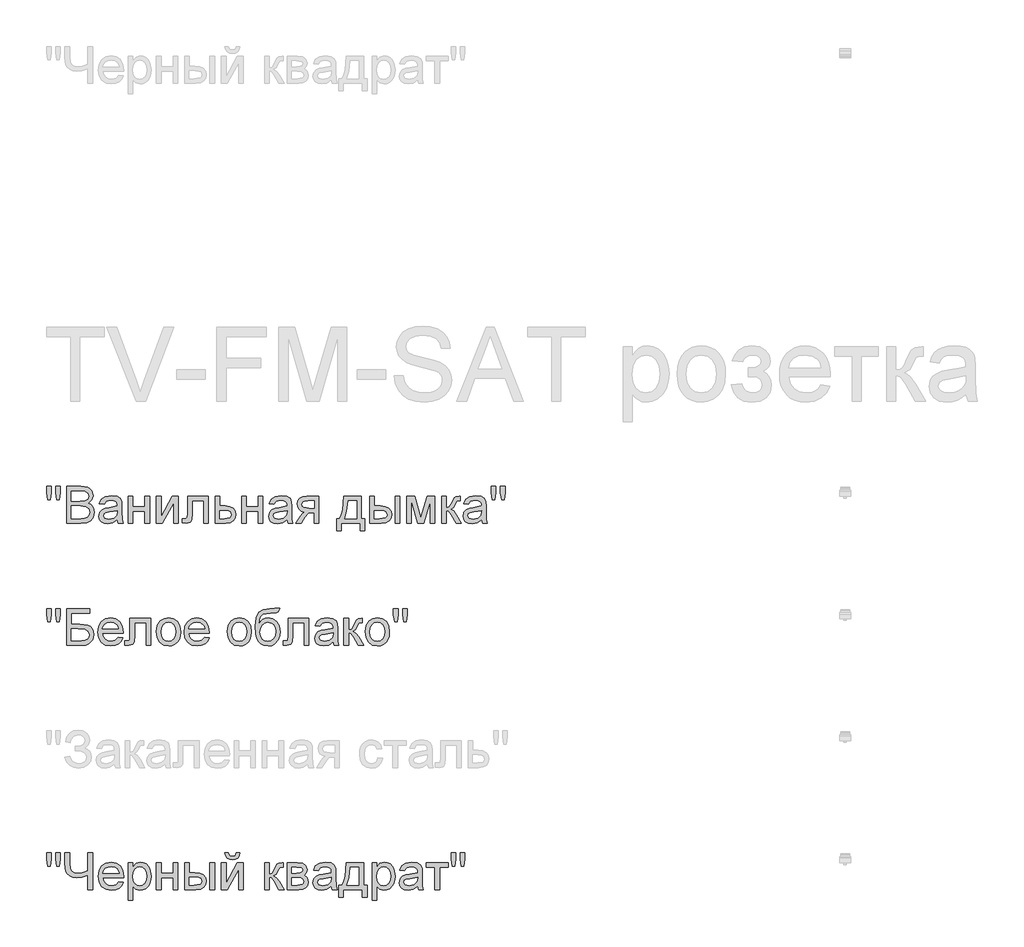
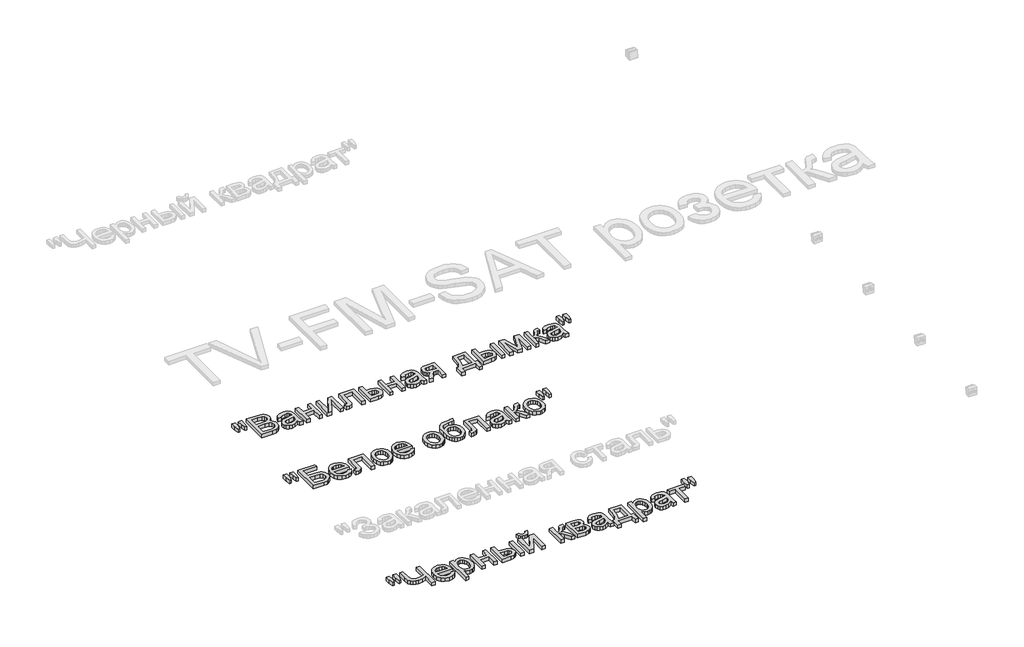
# One storey, part 20 of 168: 3 proxies.
"""IFC4 building model written with IfcOpenShell, lengths in millimetres."""

from ifc_helpers import new_model, si_unit, origin, origin_with_axes, place, context, project, spatial, polyline, outline, extrude, element, save

model = new_model("IFC4")

# Units and contexts
model_context = context("Model", 3, world=origin())
ifc_project = project(units=[si_unit("LENGTHUNIT", "METRE", prefix="MILLI")], contexts=[model_context])

# Site, building, storey
site = spatial("IfcSite", under=ifc_project)
building = spatial("IfcBuilding", under=site)
storey = spatial("IfcBuildingStorey", under=building, Name="Этаж 01", Elevation=0.0)

# Proxies
placement = place(None, origin())
element("IfcBuildingElementProxy", 1, Name="150", ObjectType="150", at=placement, inside=storey, context=model_context, shape_type="SweptSolid", body=[
    extrude(outline(polyline([(49080.1485789, -54970.3300622), (49075.550054, -54941.2305964), (49075.550054, -54916.1778325), (49094.3856121, -54916.1778325), (49094.3856121, -54941.2305964), (49090.2653338, -54970.3300622), (49080.1485789, -54970.3300622)])), origin_with_axes(), (0.0, 0.0, 1.0), 20.0),
    extrude(outline(polyline([(49117.7093306, -54970.3300622), (49113.2211703, -54941.2305964), (49113.2211703, -54916.1778325), (49132.0567284, -54916.1778325), (49132.0567284, -54941.2305964), (49127.6421445, -54970.3300622), (49117.7093306, -54970.3300622)])), origin_with_axes(), (0.0, 0.0, 1.0), 20.0),
    extrude(outline(polyline([(49157.9556209, -55066.8622977), (49157.9556209, -54916.1778325), (49215.4555767, -54916.1778325), (49243.6169435, -54920.6108106), (49253.0807078, -54926.2348066), (49260.2452096, -54934.2408385), (49266.2600803, -54953.517855), (49261.2017028, -54971.1210085), (49245.9162059, -54984.4567308), (49256.5893823, -54990.030143), (49264.4758526, -54998.509823), (49269.3456905, -55009.3347507), (49270.9689698, -55021.9439061), (49266.5359918, -55042.19581), (49255.5547142, -55056.6167842), (49239.1655713, -55064.2687297), (49215.0141183, -55066.8622977), (49157.9556209, -55066.8622977)]), holes=[polyline([(49176.791179, -54977.3933965), (49211.1881456, -54977.3933965), (49231.2745025, -54975.7747157), (49243.3594261, -54968.8033519), (49247.4245221, -54956.5344874), (49243.6353376, -54944.2472287), (49232.7828187, -54936.9815593), (49208.5761834, -54935.0133907), (49176.791179, -54935.0133907), (49176.791179, -54977.3933965)]), polyline([(49176.791179, -55048.0267396), (49215.4187885, -55048.0267396), (49229.3983043, -55047.2909756), (49241.2257105, -55043.1890913), (49249.061597, -55034.819776), (49252.1334117, -55022.1278471), (49248.5281681, -55007.4861437), (49236.8479148, -54998.7489463), (49213.5793786, -54996.2289547), (49176.791179, -54996.2289547), (49176.791179, -55048.0267396)])]), origin_with_axes(), (0.0, 0.0, 1.0), 20.0),
    extrude(outline(polyline([(49365.1467606, -55052.7356291), (49346.8814195, -55065.5011344), (49326.7030921, -55069.2167425), (49310.9623412, -55066.9818594), (49299.3510657, -55060.27721), (49292.1911624, -55050.0960758), (49289.804528, -55037.4317381), (49293.4097715, -55022.5325173), (49302.8827329, -55011.7167867), (49316.0713024, -55005.5363691), (49332.3684748, -55002.7036778), (49365.036396, -54996.2289547), (49365.1467606, -54992.0350999), (49363.8499765, -54983.6289963), (49359.9596244, -54978.1291605), (49351.2592153, -54974.0456704), (49339.1375035, -54972.684507), (49320.0812162, -54976.3081446), (49310.9945309, -54989.1656204), (49292.1589727, -54986.8111756), (49300.3075589, -54968.4170758), (49316.7150959, -54957.6381334), (49341.5655247, -54953.8489488), (49364.3926025, -54957.196675), (49377.2868664, -54965.6027786), (49383.0626137, -54978.3866779), (49383.9823187, -54994.8677913), (49383.9823187, -55018.3018744), (49384.9388119, -55051.0249778), (49388.6912083, -55066.8622977), (49369.8556501, -55066.8622977), (49365.1467606, -55052.7356291)]), holes=[polyline([(49365.1467606, -55015.0645128), (49334.7597078, -55020.8402601), (49318.5545059, -55023.8936807), (49311.2152601, -55028.8600876), (49308.6400861, -55036.1073629), (49314.2502865, -55046.2976942), (49330.7130058, -55050.3811843), (49349.7692932, -55045.8746299), (49362.0565518, -55034.9669288), (49365.036396, -55020.3988017), (49365.1467606, -55015.0645128)])]), origin_with_axes(), (0.0, 0.0, 1.0), 20.0),
    extrude(outline(polyline([(49409.8812112, -54956.2033936), (49428.7167693, -54956.2033936), (49428.7167693, -54998.5833994), (49478.1601095, -54998.5833994), (49478.1601095, -54956.2033936), (49496.9956676, -54956.2033936), (49496.9956676, -55066.8622977), (49478.1601095, -55066.8622977), (49478.1601095, -55017.4189576), (49428.7167693, -55017.4189576), (49428.7167693, -55066.8622977), (49409.8812112, -55066.8622977), (49409.8812112, -54956.2033936)])), origin_with_axes(), (0.0, 0.0, 1.0), 20.0),
    extrude(outline(polyline([(49525.2490049, -54956.2033936), (49544.084563, -54956.2033936), (49544.084563, -55040.5955233), (49590.364118, -54956.2033936), (49614.7179061, -54956.2033936), (49614.7179061, -55066.8622977), (49595.8823479, -55066.8622977), (49595.8823479, -54982.9852028), (49549.8970985, -55066.8622977), (49525.2490049, -55066.8622977), (49525.2490049, -54956.2033936)])), origin_with_axes(), (0.0, 0.0, 1.0), 20.0),
    extrude(outline(polyline([(49652.3890224, -54956.2033936), (49737.1490341, -54956.2033936), (49737.1490341, -55066.7519331), (49718.3134759, -55066.7519331), (49718.3134759, -54975.0389517), (49671.2245806, -54975.0389517), (49671.2245806, -55027.830018), (49669.9553877, -55052.1838061), (49662.9840239, -55062.4661079), (49646.5029105, -55066.8622977), (49631.1990195, -55065.9058045), (49631.1990195, -55048.0267396), (49639.6235172, -55048.0267396), (49648.1399854, -55046.8679113), (49651.5428938, -55043.1890913), (49652.3890224, -55026.7631603), (49652.3890224, -54956.2033936)])), origin_with_axes(), (0.0, 0.0, 1.0), 20.0),
    extrude(outline(polyline([(49765.4023713, -54956.2033936), (49784.2379295, -54956.2033936), (49784.2379295, -54996.2289547), (49805.9429672, -54996.2289547), (49824.7601312, -54998.587998), (49838.6844648, -55005.6651278), (49847.2929034, -55016.8901272), (49850.162383, -55031.692779), (49847.7205663, -55045.1710556), (49840.395116, -55056.5432078), (49827.6985887, -55064.2825252), (49809.1435405, -55066.8622977), (49765.4023713, -55066.8622977), (49765.4023713, -54956.2033936)]), holes=[polyline([(49784.2379295, -55048.0267396), (49801.8226888, -55048.0267396), (49824.539402, -55044.0720081), (49829.6299692, -55039.0090322), (49831.3268249, -55031.7295672), (49826.3052356, -55020.1412843), (49818.2348244, -55016.3337057), (49804.066769, -55015.0645128), (49784.2379295, -55015.0645128), (49784.2379295, -55048.0267396)])]), origin_with_axes(), (0.0, 0.0, 1.0), 20.0),
    extrude(outline(polyline([(49873.7068307, -54956.2033936), (49892.5423889, -54956.2033936), (49892.5423889, -54998.5833994), (49941.985729, -54998.5833994), (49941.985729, -54956.2033936), (49960.8212872, -54956.2033936), (49960.8212872, -55066.8622977), (49941.985729, -55066.8622977), (49941.985729, -55017.4189576), (49892.5423889, -55017.4189576), (49892.5423889, -55066.8622977), (49873.7068307, -55066.8622977), (49873.7068307, -54956.2033936)])), origin_with_axes(), (0.0, 0.0, 1.0), 20.0),
    extrude(outline(polyline([(50059.7079675, -55052.7356291), (50041.4426264, -55065.5011344), (50021.264299, -55069.2167425), (50005.5235481, -55066.9818594), (49993.9122726, -55060.27721), (49986.7523693, -55050.0960758), (49984.3657349, -55037.4317381), (49987.9709784, -55022.5325173), (49997.4439398, -55011.7167867), (50010.6325093, -55005.5363691), (50026.9296817, -55002.7036778), (50059.5976029, -54996.2289547), (50059.7079675, -54992.0350999), (50058.4111834, -54983.6289963), (50054.5208313, -54978.1291605), (50045.8204221, -54974.0456704), (50033.6987104, -54972.684507), (50014.6424231, -54976.3081446), (50005.5557378, -54989.1656204), (49986.7201796, -54986.8111756), (49994.8687658, -54968.4170758), (50011.2763028, -54957.6381334), (50036.1267316, -54953.8489488), (50058.9538094, -54957.196675), (50071.8480733, -54965.6027786), (50077.6238206, -54978.3866779), (50078.5435256, -54994.8677913), (50078.5435256, -55018.3018744), (50079.5000188, -55051.0249778), (50083.2524152, -55066.8622977), (50064.416857, -55066.8622977), (50059.7079675, -55052.7356291)]), holes=[polyline([(50059.7079675, -55015.0645128), (50029.3209147, -55020.8402601), (50013.1157128, -55023.8936807), (50005.776467, -55028.8600876), (50003.201293, -55036.1073629), (50008.8114934, -55046.2976942), (50025.2742127, -55050.3811843), (50044.3305001, -55045.8746299), (50056.6177587, -55034.9669288), (50059.5976029, -55020.3988017), (50059.7079675, -55015.0645128)])]), origin_with_axes(), (0.0, 0.0, 1.0), 20.0),
    extrude(outline(polyline([(50189.2024298, -54956.2033936), (50189.2024298, -55066.8622977), (50170.3668716, -55066.8622977), (50170.3668716, -55024.4822919), (50160.1029639, -55024.4822919), (50146.1234481, -55026.8735249), (50132.9900609, -55042.949968), (50117.9804755, -55066.8622977), (50096.2018614, -55066.8622977), (50115.1109959, -55036.6223977), (50123.4619172, -55025.7698789), (50131.1506509, -55020.9506247), (50118.2747811, -55017.0050903), (50109.224884, -55009.5094947), (50103.872201, -54999.5398926), (50102.0879733, -54988.172339), (50104.5251915, -54975.278075), (50111.8368462, -54965.0693497), (50123.7654199, -54958.4198826), (50140.0533952, -54956.2033936), (50189.2024298, -54956.2033936)]), holes=[polyline([(50170.3668716, -54975.0389517), (50145.5348369, -54975.0389517), (50132.7095509, -54976.1288021), (50125.4300859, -54979.3983534), (50120.9235315, -54989.6070787), (50122.583599, -54996.7853762), (50127.5638015, -55001.7655787), (50151.0898551, -55005.6467337), (50170.3668716, -55005.6467337), (50170.3668716, -54975.0389517)])]), origin_with_axes(), (0.0, 0.0, 1.0), 20.0),
    extrude(outline(polyline([(50292.7979996, -54956.2033936), (50363.4313427, -54956.2033936), (50363.4313427, -55048.0267396), (50377.5580113, -55048.0267396), (50377.5580113, -55097.4700797), (50358.7224531, -55097.4700797), (50358.7224531, -55066.8622977), (50281.0257758, -55066.8622977), (50281.0257758, -55097.4700797), (50262.1902176, -55097.4700797), (50262.1902176, -55048.0267396), (50273.9624415, -55048.0267396), (50282.5202964, -55032.5619002), (50288.5121744, -55012.1030628), (50292.7979996, -54956.2033936)]), holes=[polyline([(50309.279113, -54975.0389517), (50304.864529, -55017.9523865), (50295.1524444, -55048.0267396), (50344.5957845, -55048.0267396), (50344.5957845, -54975.0389517), (50309.279113, -54975.0389517)])]), origin_with_axes(), (0.0, 0.0, 1.0), 20.0),
    extrude(outline(polyline([(50502.3435841, -54956.2033936), (50521.1791422, -54956.2033936), (50521.1791422, -55066.8622977), (50502.3435841, -55066.8622977), (50502.3435841, -54956.2033936)])), origin_with_axes(), (0.0, 0.0, 1.0), 20.0),
    extrude(outline(polyline([(50398.7480142, -54956.2033936), (50417.5835724, -54956.2033936), (50417.5835724, -54996.2289547), (50440.8705027, -54996.2289547), (50460.9982463, -54998.587998), (50475.9112627, -55005.6651278), (50485.1405023, -55016.8901272), (50488.2169154, -55031.692779), (50485.637143, -55045.1710556), (50477.8978255, -55056.5432078), (50464.4931253, -55064.2825252), (50444.9172046, -55066.8622977), (50398.7480142, -55066.8622977), (50398.7480142, -54956.2033936)]), holes=[polyline([(50417.5835724, -55048.0267396), (50436.9341653, -55048.0267396), (50461.9133528, -55044.0720081), (50467.5143562, -55039.0090322), (50469.3813573, -55031.7295672), (50463.8447333, -55020.1412843), (50454.9649816, -55016.3337057), (50439.3989747, -55015.0645128), (50417.5835724, -55015.0645128), (50417.5835724, -55048.0267396)])]), origin_with_axes(), (0.0, 0.0, 1.0), 20.0),
    extrude(outline(polyline([(50549.4324794, -54956.2033936), (50581.8428832, -54956.2033936), (50606.8220707, -55044.789378), (50633.7510327, -54956.2033936), (50664.8002731, -54956.2033936), (50664.8002731, -55066.8622977), (50645.964715, -55066.8622977), (50645.964715, -54977.7612785), (50618.8886001, -55066.8622977), (50594.1669301, -55066.8622977), (50568.2680376, -54973.4938474), (50568.2680376, -55066.8622977), (50549.4324794, -55066.8622977), (50549.4324794, -54956.2033936)])), origin_with_axes(), (0.0, 0.0, 1.0), 20.0),
    extrude(outline(polyline([(50693.0536104, -54956.2033936), (50711.8891685, -54956.2033936), (50711.8891685, -55003.292289), (50724.5075209, -54999.9077746), (50734.845005, -54980.1892997), (50743.4350496, -54963.1747574), (50751.0134187, -54957.6381334), (50764.7905994, -54956.2033936), (50768.395843, -54956.2033936), (50768.395843, -54975.1493163), (50763.3190714, -54975.0389517), (50754.1220216, -54977.0255145), (50747.6472984, -54989.4231377), (50740.0505352, -55002.8324365), (50729.4003515, -55009.3991301), (50741.2829399, -55016.7291788), (50752.9447992, -55032.1710256), (50773.1047325, -55066.8622977), (50751.6940004, -55066.8622977), (50731.9387372, -55032.9067896), (50722.0059234, -55018.5409977), (50711.8891685, -55015.0645128), (50711.8891685, -55066.8622977), (50693.0536104, -55066.8622977), (50693.0536104, -54956.2033936)])), origin_with_axes(), (0.0, 0.0, 1.0), 20.0),
    extrude(outline(polyline([(50855.5102994, -55052.7356291), (50837.2449584, -55065.5011344), (50817.0666309, -55069.2167425), (50801.3258801, -55066.9818594), (50789.7146046, -55060.27721), (50782.5547013, -55050.0960758), (50780.1680668, -55037.4317381), (50783.7733104, -55022.5325173), (50793.2462717, -55011.7167867), (50806.4348413, -55005.5363691), (50822.7320137, -55002.7036778), (50855.3999348, -54996.2289547), (50855.5102994, -54992.0350999), (50854.2135154, -54983.6289963), (50850.3231633, -54978.1291605), (50841.6227541, -54974.0456704), (50829.5010424, -54972.684507), (50810.444755, -54976.3081446), (50801.3580697, -54989.1656204), (50782.5225116, -54986.8111756), (50790.6710978, -54968.4170758), (50807.0786348, -54957.6381334), (50831.9290635, -54953.8489488), (50854.7561413, -54957.196675), (50867.6504053, -54965.6027786), (50873.4261526, -54978.3866779), (50874.3458576, -54994.8677913), (50874.3458576, -55018.3018744), (50875.3023508, -55051.0249778), (50879.0547471, -55066.8622977), (50860.219189, -55066.8622977), (50855.5102994, -55052.7356291)]), holes=[polyline([(50855.5102994, -55015.0645128), (50825.1232466, -55020.8402601), (50808.9180447, -55023.8936807), (50801.5787989, -55028.8600876), (50799.003625, -55036.1073629), (50804.6138254, -55046.2976942), (50821.0765447, -55050.3811843), (50840.132832, -55045.8746299), (50852.4200907, -55034.9669288), (50855.3999348, -55020.3988017), (50855.5102994, -55015.0645128)])]), origin_with_axes(), (0.0, 0.0, 1.0), 20.0),
    extrude(outline(polyline([(50900.1343854, -54970.3300622), (50895.5358605, -54941.2305964), (50895.5358605, -54916.1778325), (50914.3714187, -54916.1778325), (50914.3714187, -54941.2305964), (50910.2511403, -54970.3300622), (50900.1343854, -54970.3300622)])), origin_with_axes(), (0.0, 0.0, 1.0), 20.0),
    extrude(outline(polyline([(50937.6951372, -54970.3300622), (50933.2069768, -54941.2305964), (50933.2069768, -54916.1778325), (50952.042535, -54916.1778325), (50952.042535, -54941.2305964), (50947.627951, -54970.3300622), (50937.6951372, -54970.3300622)])), origin_with_axes(), (0.0, 0.0, 1.0), 20.0),
])
element("IfcBuildingElementProxy", 2, Name="150", ObjectType="150", at=placement, inside=storey, context=model_context, shape_type="SweptSolid", body=[
    extrude(outline(polyline([(49080.1485789, -55470.3300622), (49075.550054, -55441.2305964), (49075.550054, -55416.1778325), (49094.3856121, -55416.1778325), (49094.3856121, -55441.2305964), (49090.2653338, -55470.3300622), (49080.1485789, -55470.3300622)])), origin_with_axes(), (0.0, 0.0, 1.0), 20.0),
    extrude(outline(polyline([(49117.7093306, -55470.3300622), (49113.2211703, -55441.2305964), (49113.2211703, -55416.1778325), (49132.0567284, -55416.1778325), (49132.0567284, -55441.2305964), (49127.6421445, -55470.3300622), (49117.7093306, -55470.3300622)])), origin_with_axes(), (0.0, 0.0, 1.0), 20.0),
    extrude(outline(polyline([(49157.9556209, -55416.1778325), (49252.1334117, -55416.1778325), (49252.1334117, -55435.0133907), (49176.791179, -55435.0133907), (49176.791179, -55479.7478413), (49212.0710624, -55479.7478413), (49243.157091, -55483.573814), (49253.5589544, -55489.101241), (49261.6615553, -55498.0315764), (49266.8762826, -55509.5278888), (49268.614525, -55522.7532465), (49263.6665122, -55544.2191609), (49248.8960501, -55560.5347274), (49235.6247071, -55565.2804052), (49215.4555767, -55566.8622977), (49157.9556209, -55566.8622977), (49157.9556209, -55416.1778325)]), holes=[polyline([(49176.791179, -55548.0267396), (49217.1478339, -55548.0267396), (49231.4124583, -55546.4724382), (49241.6119866, -55541.8095339), (49247.7372218, -55534.0380267), (49249.7789669, -55523.1579167), (49245.1068655, -55508.4058487), (49232.102237, -55500.533174), (49203.7201411, -55498.5833994), (49176.791179, -55498.5833994), (49176.791179, -55548.0267396)])]), origin_with_axes(), (0.0, 0.0, 1.0), 20.0),
    extrude(outline(polyline([(49369.6349209, -55533.900071), (49388.1025971, -55536.2545157), (49381.4485315, -55550.1696522), (49370.8305374, -55560.5715156), (49356.4877381, -55567.0554358), (49338.6592569, -55569.2167425), (49316.5587461, -55565.4873388), (49299.5534008, -55554.2991276), (49288.710079, -55536.3786759), (49285.0956384, -55512.4525506), (49288.7468672, -55487.7216835), (49299.7005536, -55469.2264162), (49316.4759726, -55457.6933157), (49337.5923991, -55453.8489488), (49358.0512366, -55457.6841186), (49374.3989927, -55469.189628), (49385.1181544, -55487.6481071), (49388.6912083, -55512.342186), (49388.5808437, -55517.4189576), (49303.9311966, -55517.4189576), (49307.1915508, -55531.518035), (49314.7653213, -55541.8831103), (49325.6960151, -55548.2566658), (49339.0271389, -55550.3811843), (49357.4948151, -55546.444847), (49369.6349209, -55533.900071)]), holes=[polyline([(49303.9311966, -55498.5833994), (49369.8556501, -55498.5833994), (49367.3080673, -55488.6321915), (49362.3140692, -55481.5136749), (49351.3327917, -55474.8917989), (49337.5188227, -55472.684507), (49324.8222954, -55474.445742), (49314.3238629, -55479.7294472), (49307.0260039, -55487.9654053), (49303.9311966, -55498.5833994)])]), origin_with_axes(), (0.0, 0.0, 1.0), 20.0),
    extrude(outline(polyline([(49416.9445455, -55456.2033936), (49501.7045572, -55456.2033936), (49501.7045572, -55566.7519331), (49482.868999, -55566.7519331), (49482.868999, -55475.0389517), (49435.7801036, -55475.0389517), (49435.7801036, -55527.830018), (49434.5109108, -55552.1838061), (49427.539547, -55562.4661079), (49411.0584336, -55566.8622977), (49395.7545426, -55565.9058045), (49395.7545426, -55548.0267396), (49404.1790403, -55548.0267396), (49412.6955084, -55546.8679113), (49416.0984169, -55543.1890913), (49416.9445455, -55526.7631603), (49416.9445455, -55456.2033936)])), origin_with_axes(), (0.0, 0.0, 1.0), 20.0),
    extrude(outline(polyline([(49525.2490049, -55511.5328457), (49529.323298, -55484.852204), (49541.5461773, -55466.0994193), (49556.6477332, -55456.9115664), (49574.7291332, -55453.8489488), (49594.516586, -55457.5783525), (49610.3217163, -55468.7665637), (49620.6821929, -55486.5306656), (49624.1356852, -55509.9877413), (49622.6089749, -55529.0164375), (49618.0288441, -55543.501791), (49610.5286499, -55554.3497114), (49600.2417496, -55562.4661079), (49588.0234688, -55567.5290839), (49574.7291332, -55569.2167425), (49554.7025571, -55565.5011344), (49538.915821, -55554.3543099), (49528.6657089, -55536.2177275), (49525.2490049, -55511.5328457)]), holes=[polyline([(49544.084563, -55511.4960575), (49546.2642638, -55528.5427894), (49552.8033663, -55540.6874938), (49562.6442097, -55547.9577617), (49574.7291332, -55550.3811843), (49586.7588745, -55547.9439661), (49596.5813237, -55540.6323115), (49603.1204262, -55528.3266587), (49605.300127, -55510.9074463), (49603.1066306, -55494.357355), (49596.5261414, -55482.3781975), (49586.6898966, -55475.1079296), (49574.7291332, -55472.684507), (49562.6442097, -55475.0987326), (49552.8033663, -55482.3414093), (49546.2642638, -55494.4585226), (49544.084563, -55511.4960575)])]), origin_with_axes(), (0.0, 0.0, 1.0), 20.0),
    extrude(outline(polyline([(49722.8016363, -55533.900071), (49741.2693124, -55536.2545157), (49734.6152469, -55550.1696522), (49723.9972528, -55560.5715156), (49709.6544535, -55567.0554358), (49691.8259723, -55569.2167425), (49669.7254614, -55565.4873388), (49652.7201162, -55554.2991276), (49641.8767944, -55536.3786759), (49638.2623538, -55512.4525506), (49641.9135826, -55487.7216835), (49652.867269, -55469.2264162), (49669.642688, -55457.6933157), (49690.7591145, -55453.8489488), (49711.217952, -55457.6841186), (49727.5657081, -55469.189628), (49738.2848698, -55487.6481071), (49741.8579236, -55512.342186), (49741.747559, -55517.4189576), (49657.0979119, -55517.4189576), (49660.3582661, -55531.518035), (49667.9320367, -55541.8831103), (49678.8627305, -55548.2566658), (49692.1938543, -55550.3811843), (49710.6615304, -55546.444847), (49722.8016363, -55533.900071)]), holes=[polyline([(49657.0979119, -55498.5833994), (49723.0223655, -55498.5833994), (49720.4747827, -55488.6321915), (49715.4807846, -55481.5136749), (49704.499507, -55474.8917989), (49690.6855381, -55472.684507), (49677.9890107, -55474.445742), (49667.4905783, -55479.7294472), (49660.1927192, -55487.9654053), (49657.0979119, -55498.5833994)])]), origin_with_axes(), (0.0, 0.0, 1.0), 20.0),
    extrude(outline(polyline([(49814.8457115, -55511.5328457), (49818.9200046, -55484.852204), (49831.1428839, -55466.0994193), (49846.2444398, -55456.9115664), (49864.3258398, -55453.8489488), (49884.1132926, -55457.5783525), (49899.9184229, -55468.7665637), (49910.2788995, -55486.5306656), (49913.7323918, -55509.9877413), (49912.2056815, -55529.0164375), (49907.6255507, -55543.501791), (49900.1253565, -55554.3497114), (49889.8384562, -55562.4661079), (49877.6201754, -55567.5290839), (49864.3258398, -55569.2167425), (49844.2992637, -55565.5011344), (49828.5125276, -55554.3543099), (49818.2624155, -55536.2177275), (49814.8457115, -55511.5328457)]), holes=[polyline([(49833.6812696, -55511.4960575), (49835.8609704, -55528.5427894), (49842.4000729, -55540.6874938), (49852.2409163, -55547.9577617), (49864.3258398, -55550.3811843), (49876.3555811, -55547.9439661), (49886.1780303, -55540.6323115), (49892.7171328, -55528.3266587), (49894.8968336, -55510.9074463), (49892.7033372, -55494.357355), (49886.122848, -55482.3781975), (49876.2866032, -55475.1079296), (49864.3258398, -55472.684507), (49852.2409163, -55475.0987326), (49842.4000729, -55482.3414093), (49835.8609704, -55494.4585226), (49833.6812696, -55511.4960575)])]), origin_with_axes(), (0.0, 0.0, 1.0), 20.0),
    extrude(outline(polyline([(50012.6190721, -55413.8233877), (50029.1001855, -55413.8233877), (50024.2441431, -55428.5202734), (50014.6424231, -55433.8361683), (49991.576222, -55435.0133907), (49960.5085875, -55439.3543982), (49953.3808738, -55445.0013868), (49948.5892108, -55453.2603376), (49944.560903, -55477.8716431), (49960.8764695, -55459.8454253), (49970.7954878, -55455.3480679), (49981.9009255, -55453.8489488), (50001.4998388, -55457.661126), (50017.401538, -55469.0976575), (50027.9413572, -55487.0365033), (50031.4546302, -55510.3556233), (50029.7117893, -55528.3358558), (50024.4832664, -55542.766027), (50007.9469707, -55562.3189551), (49996.6529935, -55567.4922957), (49981.9009255, -55569.2167425), (49964.9001788, -55566.995655), (49952.1576662, -55560.3323923), (49942.7812738, -55550.2064404), (49935.8788879, -55537.597285), (49931.6298508, -55518.6099755), (49930.2135052, -55489.3495614), (49933.786559, -55453.2097538), (49944.5057207, -55431.1690238), (49962.6377045, -55419.9256303), (49988.449225, -55416.1778325), (50009.4184987, -55415.7547682), (50012.6190721, -55413.8233877)]), holes=[polyline([(50012.6190721, -55509.7670121), (50010.577327, -55494.9459662), (50004.4520918, -55483.0771733), (49994.6112484, -55475.2826736), (49981.4226789, -55472.684507), (49967.6730893, -55475.4298264), (49957.473561, -55483.6657845), (49951.1551877, -55496.4910706), (49949.0490633, -55513.0043736), (49951.3759169, -55529.011839), (49958.3564778, -55540.7610702), (49968.7491442, -55547.9761558), (49981.3123143, -55550.3811843), (49993.9398638, -55547.5990768), (50003.937057, -55539.252754), (50010.4485683, -55526.3171033), (50012.6190721, -55509.7670121)])]), origin_with_axes(), (0.0, 0.0, 1.0), 20.0),
    extrude(outline(polyline([(50064.416857, -55456.2033936), (50149.1768687, -55456.2033936), (50149.1768687, -55566.7519331), (50130.3413105, -55566.7519331), (50130.3413105, -55475.0389517), (50083.2524152, -55475.0389517), (50083.2524152, -55527.830018), (50081.9832223, -55552.1838061), (50075.0118585, -55562.4661079), (50058.5307451, -55566.8622977), (50043.2268541, -55565.9058045), (50043.2268541, -55548.0267396), (50051.6513518, -55548.0267396), (50060.16782, -55546.8679113), (50063.5707284, -55543.1890913), (50064.416857, -55526.7631603), (50064.416857, -55456.2033936)])), origin_with_axes(), (0.0, 0.0, 1.0), 20.0),
    extrude(outline(polyline([(50248.063549, -55552.7356291), (50229.7982079, -55565.5011344), (50209.6198805, -55569.2167425), (50193.8791296, -55566.9818594), (50182.2678542, -55560.27721), (50175.1079508, -55550.0960758), (50172.7213164, -55537.4317381), (50176.3265599, -55522.5325173), (50185.7995213, -55511.7167867), (50198.9880908, -55505.5363691), (50215.2852632, -55502.7036778), (50247.9531844, -55496.2289547), (50248.063549, -55492.0350999), (50246.766765, -55483.6289963), (50242.8764129, -55478.1291605), (50234.1760037, -55474.0456704), (50222.0542919, -55472.684507), (50202.9980046, -55476.3081446), (50193.9113193, -55489.1656204), (50175.0757612, -55486.8111756), (50183.2243473, -55468.4170758), (50199.6318843, -55457.6381334), (50224.4823131, -55453.8489488), (50247.3093909, -55457.196675), (50260.2036548, -55465.6027786), (50265.9794022, -55478.3866779), (50266.8991071, -55494.8677913), (50266.8991071, -55518.3018744), (50267.8556003, -55551.0249778), (50271.6079967, -55566.8622977), (50252.7724385, -55566.8622977), (50248.063549, -55552.7356291)]), holes=[polyline([(50248.063549, -55515.0645128), (50217.6764962, -55520.8402601), (50201.4712943, -55523.8936807), (50194.1320485, -55528.8600876), (50191.5568745, -55536.1073629), (50197.167075, -55546.2976942), (50213.6297942, -55550.3811843), (50232.6860816, -55545.8746299), (50244.9733402, -55534.9669288), (50247.9531844, -55520.3988017), (50248.063549, -55515.0645128)])]), origin_with_axes(), (0.0, 0.0, 1.0), 20.0),
    extrude(outline(polyline([(50292.7979996, -55456.2033936), (50311.6335578, -55456.2033936), (50311.6335578, -55503.292289), (50324.2519102, -55499.9077746), (50334.5893943, -55480.1892997), (50343.1794388, -55463.1747574), (50350.7578079, -55457.6381334), (50364.5349887, -55456.2033936), (50368.1402322, -55456.2033936), (50368.1402322, -55475.1493163), (50363.0634607, -55475.0389517), (50353.8664108, -55477.0255145), (50347.3916877, -55489.4231377), (50339.7949245, -55502.8324365), (50329.1447407, -55509.3991301), (50341.0273292, -55516.7291788), (50352.6891884, -55532.1710256), (50372.8491218, -55566.8622977), (50351.4383896, -55566.8622977), (50331.6831265, -55532.9067896), (50321.7503126, -55518.5409977), (50311.6335578, -55515.0645128), (50311.6335578, -55566.8622977), (50292.7979996, -55566.8622977), (50292.7979996, -55456.2033936)])), origin_with_axes(), (0.0, 0.0, 1.0), 20.0),
    extrude(outline(polyline([(50379.9124561, -55511.5328457), (50383.9867492, -55484.852204), (50396.2096285, -55466.0994193), (50411.3111844, -55456.9115664), (50429.3925844, -55453.8489488), (50449.1800372, -55457.5783525), (50464.9851674, -55468.7665637), (50475.3456441, -55486.5306656), (50478.7991364, -55509.9877413), (50477.2724261, -55529.0164375), (50472.6922952, -55543.501791), (50465.1921011, -55554.3497114), (50454.9052008, -55562.4661079), (50442.68692, -55567.5290839), (50429.3925844, -55569.2167425), (50409.3660083, -55565.5011344), (50393.5792722, -55554.3543099), (50383.3291601, -55536.2177275), (50379.9124561, -55511.5328457)]), holes=[polyline([(50398.7480142, -55511.4960575), (50400.927715, -55528.5427894), (50407.4668175, -55540.6874938), (50417.3076609, -55547.9577617), (50429.3925844, -55550.3811843), (50441.4223257, -55547.9439661), (50451.2447749, -55540.6323115), (50457.7838774, -55528.3266587), (50459.9635782, -55510.9074463), (50457.7700818, -55494.357355), (50451.1895926, -55482.3781975), (50441.3533478, -55475.1079296), (50429.3925844, -55472.684507), (50417.3076609, -55475.0987326), (50407.4668175, -55482.3414093), (50400.927715, -55494.4585226), (50398.7480142, -55511.4960575)])]), origin_with_axes(), (0.0, 0.0, 1.0), 20.0),
    extrude(outline(polyline([(50499.8787747, -55470.3300622), (50495.2802498, -55441.2305964), (50495.2802498, -55416.1778325), (50514.1158079, -55416.1778325), (50514.1158079, -55441.2305964), (50509.9955296, -55470.3300622), (50499.8787747, -55470.3300622)])), origin_with_axes(), (0.0, 0.0, 1.0), 20.0),
    extrude(outline(polyline([(50537.4395264, -55470.3300622), (50532.9513661, -55441.2305964), (50532.9513661, -55416.1778325), (50551.7869242, -55416.1778325), (50551.7869242, -55441.2305964), (50547.3723403, -55470.3300622), (50537.4395264, -55470.3300622)])), origin_with_axes(), (0.0, 0.0, 1.0), 20.0),
])
element("IfcBuildingElementProxy", 3, Name="150", ObjectType="150", at=placement, inside=storey, context=model_context, shape_type="SweptSolid", body=[
    extrude(outline(polyline([(49080.1485789, -56470.3300622), (49075.550054, -56441.2305964), (49075.550054, -56416.1778325), (49094.3856121, -56416.1778325), (49094.3856121, -56441.2305964), (49090.2653338, -56470.3300622), (49080.1485789, -56470.3300622)])), origin_with_axes(), (0.0, 0.0, 1.0), 20.0),
    extrude(outline(polyline([(49117.7093306, -56470.3300622), (49113.2211703, -56441.2305964), (49113.2211703, -56416.1778325), (49132.0567284, -56416.1778325), (49132.0567284, -56441.2305964), (49127.6421445, -56470.3300622), (49117.7093306, -56470.3300622)])), origin_with_axes(), (0.0, 0.0, 1.0), 20.0),
    extrude(outline(polyline([(49263.9056355, -56566.8622977), (49245.0700773, -56566.8622977), (49245.0700773, -56506.5296505), (49220.0908899, -56514.6966308), (49198.4226404, -56517.4189576), (49183.7395502, -56515.556555), (49170.886673, -56509.9693472), (49160.926268, -56501.5172583), (49154.9205944, -56491.0602126), (49150.8922866, -56461.0594359), (49150.8922866, -56416.1778325), (49169.7278447, -56416.1778325), (49169.7278447, -56458.5210502), (49171.990319, -56478.8879171), (49178.7777418, -56490.8394834), (49188.7381468, -56496.6474204), (49200.5195677, -56498.5833994), (49222.2521966, -56496.2473488), (49245.0700773, -56489.2391968), (49245.0700773, -56416.1778325), (49263.9056355, -56416.1778325), (49263.9056355, -56566.8622977)])), origin_with_axes(), (0.0, 0.0, 1.0), 20.0),
    extrude(outline(polyline([(49371.9893657, -56533.900071), (49390.4570418, -56536.2545157), (49383.8029762, -56550.1696522), (49373.1849822, -56560.5715156), (49358.8421829, -56567.0554358), (49341.0137017, -56569.2167425), (49318.9131908, -56565.4873388), (49301.9078456, -56554.2991276), (49291.0645238, -56536.3786759), (49287.4500832, -56512.4525506), (49291.101312, -56487.7216835), (49302.0549984, -56469.2264162), (49318.8304174, -56457.6933157), (49339.9468439, -56453.8489488), (49360.4056814, -56457.6841186), (49376.7534375, -56469.189628), (49387.4725992, -56487.6481071), (49391.045653, -56512.342186), (49390.9352884, -56517.4189576), (49306.2856413, -56517.4189576), (49309.5459955, -56531.518035), (49317.1197661, -56541.8831103), (49328.0504599, -56548.2566658), (49341.3815837, -56550.3811843), (49359.8492598, -56546.444847), (49371.9893657, -56533.900071)]), holes=[polyline([(49306.2856413, -56498.5833994), (49372.2100949, -56498.5833994), (49369.6625121, -56488.6321915), (49364.668514, -56481.5136749), (49353.6872364, -56474.8917989), (49339.8732675, -56472.684507), (49327.1767401, -56474.445742), (49316.6783077, -56479.7294472), (49309.3804486, -56487.9654053), (49306.2856413, -56498.5833994)])]), origin_with_axes(), (0.0, 0.0, 1.0), 20.0),
    extrude(outline(polyline([(49409.8812112, -56609.2423036), (49409.8812112, -56456.2033936), (49428.7167693, -56456.2033936), (49428.7167693, -56474.6710697), (49441.739792, -56459.054479), (49459.3245513, -56453.8489488), (49472.0624654, -56455.6699647), (49483.2000928, -56461.1330123), (49492.268384, -56469.9069979), (49498.7982894, -56481.6608277), (49504.0590019, -56510.6867171), (49502.5736784, -56526.7953499), (49498.1177077, -56541.2025286), (49490.8336442, -56553.1770875), (49480.8640422, -56561.9878613), (49469.2527667, -56567.4095222), (49457.043683, -56569.2167425), (49440.6545401, -56564.3790943), (49428.7167693, -56552.1470179), (49428.7167693, -56609.2423036), (49409.8812112, -56609.2423036)]), holes=[polyline([(49428.7167693, -56512.4157624), (49430.7539159, -56529.301546), (49436.8653555, -56541.1105581), (49445.8830629, -56548.0635278), (49456.6390128, -56550.3811843), (49467.5697066, -56547.9807543), (49476.8173402, -56540.7794643), (49483.1219179, -56528.5381909), (49485.2234438, -56511.0178109), (49483.1725017, -56494.2239978), (49477.0196753, -56482.2494388), (49468.0157635, -56475.0757399), (49457.411565, -56472.684507), (49446.7659797, -56475.2274913), (49437.4171785, -56482.8564441), (49430.8918716, -56495.3322423), (49428.7167693, -56512.4157624)])]), origin_with_axes(), (0.0, 0.0, 1.0), 20.0),
    extrude(outline(polyline([(49525.2490049, -56456.2033936), (49544.084563, -56456.2033936), (49544.084563, -56498.5833994), (49593.5279032, -56498.5833994), (49593.5279032, -56456.2033936), (49612.3634613, -56456.2033936), (49612.3634613, -56566.8622977), (49593.5279032, -56566.8622977), (49593.5279032, -56517.4189576), (49544.084563, -56517.4189576), (49544.084563, -56566.8622977), (49525.2490049, -56566.8622977), (49525.2490049, -56456.2033936)])), origin_with_axes(), (0.0, 0.0, 1.0), 20.0),
    extrude(outline(polyline([(49744.2123684, -56456.2033936), (49763.0479266, -56456.2033936), (49763.0479266, -56566.8622977), (49744.2123684, -56566.8622977), (49744.2123684, -56456.2033936)])), origin_with_axes(), (0.0, 0.0, 1.0), 20.0),
    extrude(outline(polyline([(49640.6167986, -56456.2033936), (49659.4523567, -56456.2033936), (49659.4523567, -56496.2289547), (49682.739287, -56496.2289547), (49702.8670307, -56498.587998), (49717.780047, -56505.6651278), (49727.0092866, -56516.8901272), (49730.0856998, -56531.692779), (49727.5059273, -56545.1710556), (49719.7666098, -56556.5432078), (49706.3619096, -56564.2825252), (49686.785989, -56566.8622977), (49640.6167986, -56566.8622977), (49640.6167986, -56456.2033936)]), holes=[polyline([(49659.4523567, -56548.0267396), (49678.8029497, -56548.0267396), (49703.7821371, -56544.0720081), (49709.3831405, -56539.0090322), (49711.2501416, -56531.7295672), (49705.7135176, -56520.1412843), (49696.8337659, -56516.3337057), (49681.267759, -56515.0645128), (49659.4523567, -56515.0645128), (49659.4523567, -56548.0267396)])]), origin_with_axes(), (0.0, 0.0, 1.0), 20.0),
    extrude(outline(polyline([(49791.3012638, -56456.2033936), (49810.1368219, -56456.2033936), (49810.1368219, -56540.5955233), (49856.4163769, -56456.2033936), (49880.770165, -56456.2033936), (49880.770165, -56566.8622977), (49861.9346069, -56566.8622977), (49861.9346069, -56482.9852028), (49815.9493575, -56566.8622977), (49791.3012638, -56566.8622977), (49791.3012638, -56456.2033936)])), origin_with_axes(), (0.0, 0.0, 1.0), 20.0),
    extrude(outline(polyline([(49852.5168278, -56416.1778325), (49866.6434964, -56416.1778325), (49863.6038714, -56428.2397634), (49857.5016288, -56437.1287121), (49848.6126801, -56442.6055553), (49837.2129368, -56444.4311697), (49824.8429047, -56442.6193509), (49815.2503817, -56437.1838944), (49808.6928851, -56428.3087413), (49805.4279324, -56416.1778325), (49819.554601, -56416.1778325), (49824.8521017, -56426.7912281), (49835.5206796, -56430.3045011), (49847.219327, -56426.9015927), (49852.5168278, -56416.1778325)])), origin_with_axes(), (0.0, 0.0, 1.0), 20.0),
    extrude(outline(polyline([(49967.8846215, -56456.2033936), (49986.7201796, -56456.2033936), (49986.7201796, -56503.292289), (49999.3385321, -56499.9077746), (50009.6760161, -56480.1892997), (50018.2660607, -56463.1747574), (50025.8444298, -56457.6381334), (50039.6216105, -56456.2033936), (50043.2268541, -56456.2033936), (50043.2268541, -56475.1493163), (50038.1500825, -56475.0389517), (50028.9530327, -56477.0255145), (50022.4783096, -56489.4231377), (50014.8815464, -56502.8324365), (50004.2313626, -56509.3991301), (50016.113951, -56516.7291788), (50027.7758103, -56532.1710256), (50047.9357436, -56566.8622977), (50026.5250115, -56566.8622977), (50006.7697484, -56532.9067896), (49996.8369345, -56518.5409977), (49986.7201796, -56515.0645128), (49986.7201796, -56566.8622977), (49967.8846215, -56566.8622977), (49967.8846215, -56456.2033936)])), origin_with_axes(), (0.0, 0.0, 1.0), 20.0),
    extrude(outline(polyline([(50059.7079675, -56456.2033936), (50101.2050565, -56456.2033936), (50123.9585579, -56458.7233853), (50136.7608514, -56467.9572233), (50142.1135344, -56484.0520606), (50138.8761728, -56497.1302655), (50129.1273, -56506.4560741), (50141.7824406, -56516.6647995), (50146.8224239, -56534.4151058), (50143.6310476, -56548.7717006), (50136.0434815, -56558.8792584), (50124.0321343, -56564.8665379), (50107.569415, -56566.8622977), (50059.7079675, -56566.8622977), (50059.7079675, -56456.2033936)]), holes=[polyline([(50078.5435256, -56498.5833994), (50097.1583546, -56498.5833994), (50112.5174279, -56497.6269062), (50119.9854324, -56493.8009335), (50123.2779762, -56486.884752), (50121.8340394, -56481.2653545), (50117.5022289, -56477.6509139), (50097.7469658, -56475.0389517), (50078.5435256, -56475.0389517), (50078.5435256, -56498.5833994)]), polyline([(50078.5435256, -56548.0267396), (50101.6465149, -56548.0267396), (50122.137542, -56544.6238311), (50126.377382, -56539.9839195), (50127.9868658, -56532.8700014), (50124.7678983, -56523.8017102), (50116.3801888, -56518.5226036), (50099.8071049, -56517.4189576), (50078.5435256, -56517.4189576), (50078.5435256, -56548.0267396)])]), origin_with_axes(), (0.0, 0.0, 1.0), 20.0),
    extrude(outline(polyline([(50241.0002147, -56552.7356291), (50222.7348736, -56565.5011344), (50202.5565462, -56569.2167425), (50186.8157953, -56566.9818594), (50175.2045198, -56560.27721), (50168.0446165, -56550.0960758), (50165.6579821, -56537.4317381), (50169.2632256, -56522.5325173), (50178.736187, -56511.7167867), (50191.9247565, -56505.5363691), (50208.2219289, -56502.7036778), (50240.8898501, -56496.2289547), (50241.0002147, -56492.0350999), (50239.7034307, -56483.6289963), (50235.8130786, -56478.1291605), (50227.1126694, -56474.0456704), (50214.9909576, -56472.684507), (50195.9346703, -56476.3081446), (50186.847985, -56489.1656204), (50168.0124268, -56486.8111756), (50176.161013, -56468.4170758), (50192.56855, -56457.6381334), (50217.4189788, -56453.8489488), (50240.2460566, -56457.196675), (50253.1403205, -56465.6027786), (50258.9160679, -56478.3866779), (50259.8357728, -56494.8677913), (50259.8357728, -56518.3018744), (50260.792266, -56551.0249778), (50264.5446624, -56566.8622977), (50245.7091042, -56566.8622977), (50241.0002147, -56552.7356291)]), holes=[polyline([(50241.0002147, -56515.0645128), (50210.6131619, -56520.8402601), (50194.40796, -56523.8936807), (50187.0687142, -56528.8600876), (50184.4935402, -56536.1073629), (50190.1037407, -56546.2976942), (50206.5664599, -56550.3811843), (50225.6227473, -56545.8746299), (50237.9100059, -56534.9669288), (50240.8898501, -56520.3988017), (50241.0002147, -56515.0645128)])]), origin_with_axes(), (0.0, 0.0, 1.0), 20.0),
    extrude(outline(polyline([(50302.2157787, -56456.2033936), (50372.8491218, -56456.2033936), (50372.8491218, -56548.0267396), (50386.9757904, -56548.0267396), (50386.9757904, -56597.4700797), (50368.1402322, -56597.4700797), (50368.1402322, -56566.8622977), (50290.4435548, -56566.8622977), (50290.4435548, -56597.4700797), (50271.6079967, -56597.4700797), (50271.6079967, -56548.0267396), (50283.3802205, -56548.0267396), (50291.9380754, -56532.5619002), (50297.9299534, -56512.1030628), (50302.2157787, -56456.2033936)]), holes=[polyline([(50318.6968921, -56475.0389517), (50314.2823081, -56517.9523865), (50304.5702235, -56548.0267396), (50354.0135636, -56548.0267396), (50354.0135636, -56475.0389517), (50318.6968921, -56475.0389517)])]), origin_with_axes(), (0.0, 0.0, 1.0), 20.0),
    extrude(outline(polyline([(50408.1657933, -56609.2423036), (50408.1657933, -56456.2033936), (50427.0013514, -56456.2033936), (50427.0013514, -56474.6710697), (50440.0243741, -56459.054479), (50457.6091334, -56453.8489488), (50470.3470475, -56455.6699647), (50481.4846749, -56461.1330123), (50490.5529661, -56469.9069979), (50497.0828715, -56481.6608277), (50502.3435841, -56510.6867171), (50500.8582605, -56526.7953499), (50496.4022898, -56541.2025286), (50489.1182263, -56553.1770875), (50479.1486243, -56561.9878613), (50467.5373488, -56567.4095222), (50455.3282651, -56569.2167425), (50438.9391222, -56564.3790943), (50427.0013514, -56552.1470179), (50427.0013514, -56609.2423036), (50408.1657933, -56609.2423036)]), holes=[polyline([(50427.0013514, -56512.4157624), (50429.038498, -56529.301546), (50435.1499376, -56541.1105581), (50444.167645, -56548.0635278), (50454.9235949, -56550.3811843), (50465.8542887, -56547.9807543), (50475.1019223, -56540.7794643), (50481.4065, -56528.5381909), (50483.5080259, -56511.0178109), (50481.4570838, -56494.2239978), (50475.3042574, -56482.2494388), (50466.3003456, -56475.0757399), (50455.6961471, -56472.684507), (50445.0505618, -56475.2274913), (50435.7017606, -56482.8564441), (50429.1764537, -56495.3322423), (50427.0013514, -56512.4157624)])]), origin_with_axes(), (0.0, 0.0, 1.0), 20.0),
    extrude(outline(polyline([(50594.1669301, -56552.7356291), (50575.901589, -56565.5011344), (50555.7232616, -56569.2167425), (50539.9825107, -56566.9818594), (50528.3712352, -56560.27721), (50521.2113319, -56550.0960758), (50518.8246974, -56537.4317381), (50522.429941, -56522.5325173), (50531.9029024, -56511.7167867), (50545.0914719, -56505.5363691), (50561.3886443, -56502.7036778), (50594.0565655, -56496.2289547), (50594.1669301, -56492.0350999), (50592.870146, -56483.6289963), (50588.9797939, -56478.1291605), (50580.2793847, -56474.0456704), (50568.157673, -56472.684507), (50549.1013856, -56476.3081446), (50540.0147004, -56489.1656204), (50521.1791422, -56486.8111756), (50529.3277284, -56468.4170758), (50545.7352654, -56457.6381334), (50570.5856942, -56453.8489488), (50593.412772, -56457.196675), (50606.3070359, -56465.6027786), (50612.0827832, -56478.3866779), (50613.0024882, -56494.8677913), (50613.0024882, -56518.3018744), (50613.9589814, -56551.0249778), (50617.7113777, -56566.8622977), (50598.8758196, -56566.8622977), (50594.1669301, -56552.7356291)]), holes=[polyline([(50594.1669301, -56515.0645128), (50563.7798773, -56520.8402601), (50547.5746754, -56523.8936807), (50540.2354296, -56528.8600876), (50537.6602556, -56536.1073629), (50543.270456, -56546.2976942), (50559.7331753, -56550.3811843), (50578.7894627, -56545.8746299), (50591.0767213, -56534.9669288), (50594.0565655, -56520.3988017), (50594.1669301, -56515.0645128)])]), origin_with_axes(), (0.0, 0.0, 1.0), 20.0),
    extrude(outline(polyline([(50629.4836016, -56456.2033936), (50718.9525028, -56456.2033936), (50718.9525028, -56475.0389517), (50683.6358313, -56475.0389517), (50683.6358313, -56566.8622977), (50664.8002731, -56566.8622977), (50664.8002731, -56475.0389517), (50629.4836016, -56475.0389517), (50629.4836016, -56456.2033936)])), origin_with_axes(), (0.0, 0.0, 1.0), 20.0),
    extrude(outline(polyline([(50735.3232516, -56470.3300622), (50730.7247267, -56441.2305964), (50730.7247267, -56416.1778325), (50749.5602848, -56416.1778325), (50749.5602848, -56441.2305964), (50745.4400065, -56470.3300622), (50735.3232516, -56470.3300622)])), origin_with_axes(), (0.0, 0.0, 1.0), 20.0),
    extrude(outline(polyline([(50772.8840033, -56470.3300622), (50768.395843, -56441.2305964), (50768.395843, -56416.1778325), (50787.2314011, -56416.1778325), (50787.2314011, -56441.2305964), (50782.8168172, -56470.3300622), (50772.8840033, -56470.3300622)])), origin_with_axes(), (0.0, 0.0, 1.0), 20.0),
])

save(model, "model.ifc")
